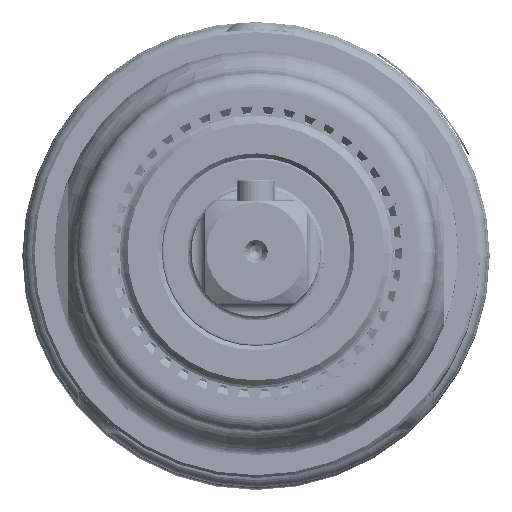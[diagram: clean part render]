
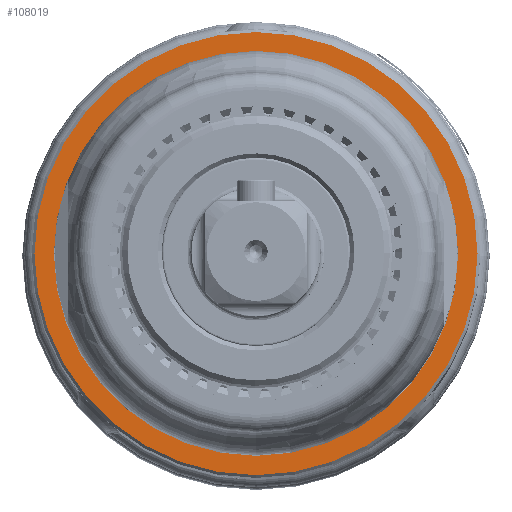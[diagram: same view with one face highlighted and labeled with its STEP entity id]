
A CAD part, top view. The second image highlights one B-rep face of the part: STEP entity #108019.
In plain terms, the highlighted planar face has unit normal (0, 0, 1).
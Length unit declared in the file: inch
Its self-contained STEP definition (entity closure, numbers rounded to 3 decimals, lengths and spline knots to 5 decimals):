
#600 = DIRECTION ( 'NONE',  ( 1., 0., 0. ) ) ;
#4513 = EDGE_LOOP ( 'NONE', ( #210248, #273541 ) ) ;
#6038 = AXIS2_PLACEMENT_3D ( 'NONE', #28108, #273398, #25239 ) ;
#16241 = VERTEX_POINT ( 'NONE', #79935 ) ;
#25239 = DIRECTION ( 'NONE',  ( 1., 0., 0. ) ) ;
#28108 = CARTESIAN_POINT ( 'NONE',  ( 0., 0., -0.391 ) ) ;
#37289 = CARTESIAN_POINT ( 'NONE',  ( -0.80812, 0., -0.391 ) ) ;
#38026 = AXIS2_PLACEMENT_3D ( 'NONE', #134320, #108118, #179459 ) ;
#54048 = AXIS2_PLACEMENT_3D ( 'NONE', #150747, #286420, #133219 ) ;
#54772 = VERTEX_POINT ( 'NONE', #37289 ) ;
#56690 = CARTESIAN_POINT ( 'NONE',  ( -0.7375, 0., -0.391 ) ) ;
#61944 = PLANE ( 'NONE',  #6038 ) ;
#71074 = AXIS2_PLACEMENT_3D ( 'NONE', #200640, #202125, #600 ) ;
#73388 = EDGE_CURVE ( 'NONE', #54772, #271703, #203189, .T. ) ;
#75438 = CIRCLE ( 'NONE', #38026, 0.7375 ) ;
#79167 = ORIENTED_EDGE ( 'NONE', *, *, #167082, .F. ) ;
#79935 = CARTESIAN_POINT ( 'NONE',  ( 0.7375, 0., -0.391 ) ) ;
#82322 = CARTESIAN_POINT ( 'NONE',  ( 0.80812, 0., -0.391 ) ) ;
#104081 = CIRCLE ( 'NONE', #253177, 0.7375 ) ;
#108019 = ADVANCED_FACE ( 'NONE', ( #244352, #133459 ), #61944, .T. ) ;
#108118 = DIRECTION ( 'NONE',  ( 0., 0., 1. ) ) ;
#111310 = CARTESIAN_POINT ( 'NONE',  ( 0., 0., -0.391 ) ) ;
#133219 = DIRECTION ( 'NONE',  ( 1., 0., 0. ) ) ;
#133240 = DIRECTION ( 'NONE',  ( 1., 0., 0. ) ) ;
#133459 = FACE_BOUND ( 'NONE', #161107, .T. ) ;
#134320 = CARTESIAN_POINT ( 'NONE',  ( 0., 0., -0.391 ) ) ;
#150747 = CARTESIAN_POINT ( 'NONE',  ( 0., 0., -0.391 ) ) ;
#161107 = EDGE_LOOP ( 'NONE', ( #250957, #79167 ) ) ;
#167082 = EDGE_CURVE ( 'NONE', #188635, #16241, #104081, .T. ) ;
#179459 = DIRECTION ( 'NONE',  ( 1., 0., 0. ) ) ;
#188635 = VERTEX_POINT ( 'NONE', #56690 ) ;
#196856 = CIRCLE ( 'NONE', #71074, 0.80812 ) ;
#200640 = CARTESIAN_POINT ( 'NONE',  ( 0., 0., -0.391 ) ) ;
#202125 = DIRECTION ( 'NONE',  ( 0., 0., 1. ) ) ;
#203189 = CIRCLE ( 'NONE', #54048, 0.80812 ) ;
#210248 = ORIENTED_EDGE ( 'NONE', *, *, #73388, .T. ) ;
#225049 = DIRECTION ( 'NONE',  ( 0., 0., 1. ) ) ;
#244352 = FACE_OUTER_BOUND ( 'NONE', #4513, .T. ) ;
#250957 = ORIENTED_EDGE ( 'NONE', *, *, #255011, .F. ) ;
#253177 = AXIS2_PLACEMENT_3D ( 'NONE', #111310, #225049, #133240 ) ;
#255011 = EDGE_CURVE ( 'NONE', #16241, #188635, #75438, .T. ) ;
#271703 = VERTEX_POINT ( 'NONE', #82322 ) ;
#273398 = DIRECTION ( 'NONE',  ( 0., 0., 1. ) ) ;
#273541 = ORIENTED_EDGE ( 'NONE', *, *, #278418, .T. ) ;
#278418 = EDGE_CURVE ( 'NONE', #271703, #54772, #196856, .T. ) ;
#286420 = DIRECTION ( 'NONE',  ( 0., 0., 1. ) ) ;
